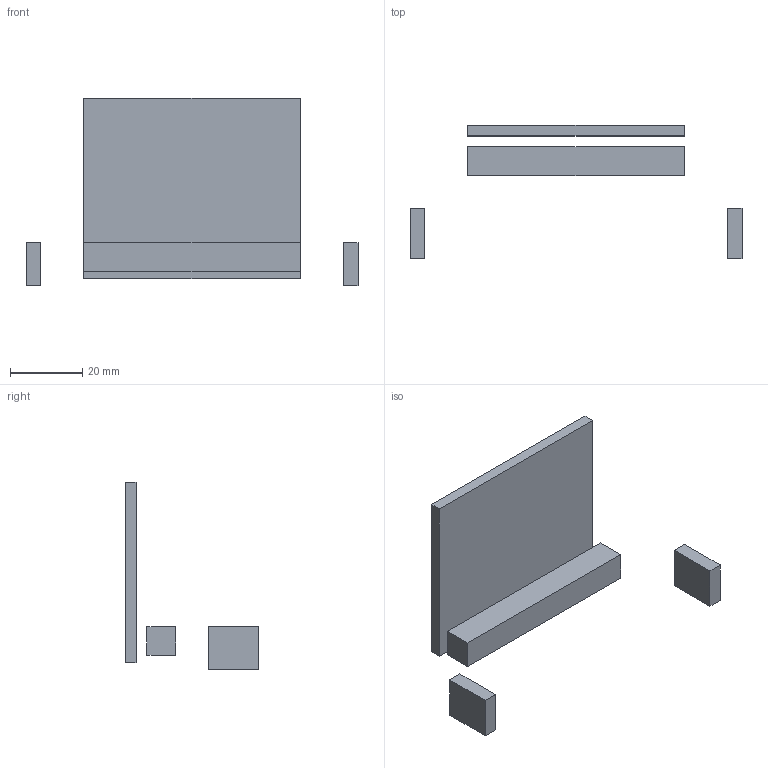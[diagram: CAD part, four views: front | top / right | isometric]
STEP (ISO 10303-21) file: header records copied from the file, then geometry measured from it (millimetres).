
FILE_DESCRIPTION(('Open CASCADE Model'),'2;1');
FILE_NAME('opt_if','2026-08-12T02:42:45',('Author'),('Open CASCADE'), 'Open CASCADE STEP processor 7.9','build123d','Unknown');
FILE_SCHEMA(('AUTOMOTIVE_DESIGN { 1 0 10303 214 1 1 1 1 }'));
Length unit declared in the file: millimetre
Products named in the file (5): opt_if; COMPOUND
Assembly tree (4 placements, depth 2):
  opt_if
    COMPOUND
    COMPOUND
    COMPOUND
    COMPOUND
Bounding box: 92 x 37 x 52 mm (x, y, z)
Volume: 14184 mm3; surface area: 9796 mm2
Topology: 4 solids, 4 shells, 24 faces, 48 edges, 32 vertices
Faces by surface type: plane 24
Entity records: 1312 total; most frequent: CARTESIAN_POINT 205, DIRECTION 202, LINE 144, VECTOR 144, ORIENTED_EDGE 96, PCURVE 96, DEFINITIONAL_REPRESENTATION 96, EDGE_CURVE 48
